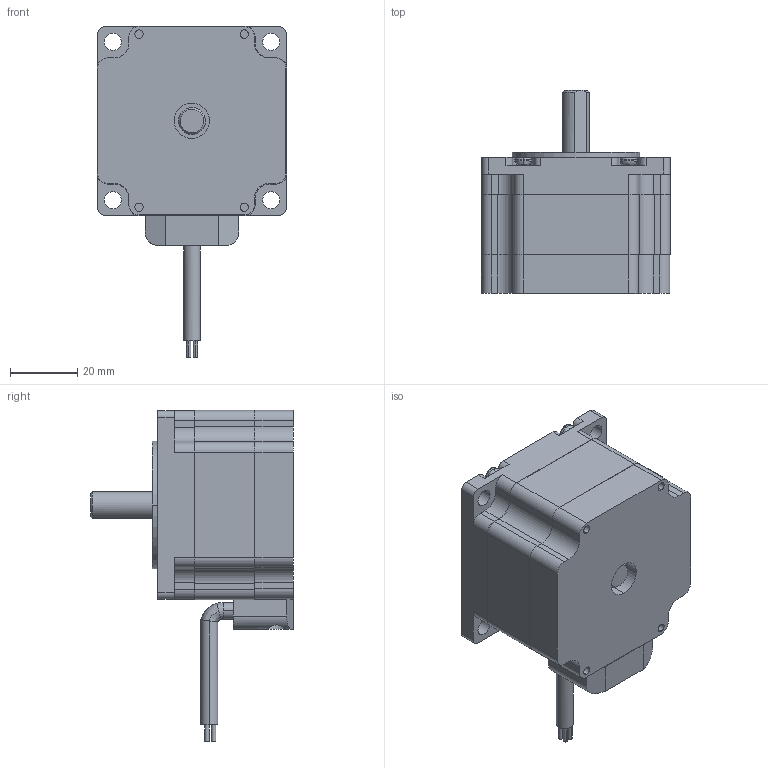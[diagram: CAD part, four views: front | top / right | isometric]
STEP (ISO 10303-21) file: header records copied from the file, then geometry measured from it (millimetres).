
FILE_DESCRIPTION (( 'STEP AP214' ), '1' );
FILE_NAME ('57BYGH241-8-A.STEP', '2020-05-21T07:32:45', ( 'Windows' ), ( 'Microsoft' ), 'SwSTEP 2.0', 'SolidWorks 2015', '' );
FILE_SCHEMA (( 'AUTOMOTIVE_DESIGN' ));
Length unit declared in the file: millimetre
Products named in the file (7): 揤盄裔; M3蹟隊; 57H241A-8-20粣; 57ヶ傷裔; 57綴傷裔; 57隅赽23; 57BYGH241-8-A
Assembly tree (9 placements, depth 2):
  57BYGH241-8-A
    57隅赽23
    57綴傷裔
    57ヶ傷裔
    57H241A-8-20粣
    M3蹟隊  x4
    揤盄裔
Bounding box: 56.4 x 60.5 x 98.73 mm (x, y, z)
Volume: 122411.1 mm3; surface area: 33820.4 mm2
Topology: 9 solids, 9 shells, 296 faces, 770 edges, 502 vertices
Faces by surface type: cylinder 153, plane 117, bspline 22, cone 4
Entity records: 10161 total; most frequent: CARTESIAN_POINT 1573, DIRECTION 1301, ORIENTED_EDGE 1198, EDGE_CURVE 599, AXIS2_PLACEMENT_3D 492, VERTEX_POINT 394, VECTOR 317, LINE 317
